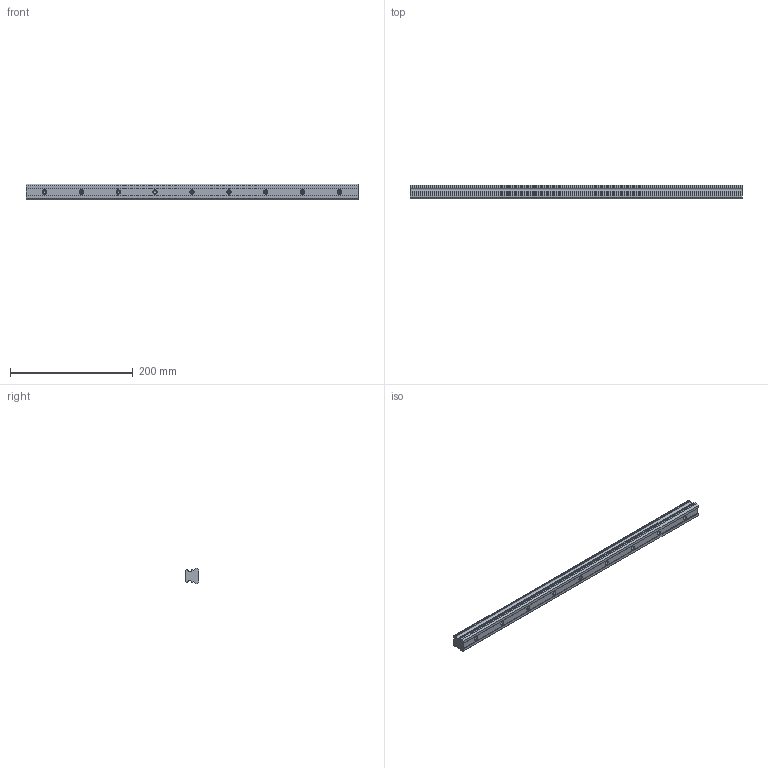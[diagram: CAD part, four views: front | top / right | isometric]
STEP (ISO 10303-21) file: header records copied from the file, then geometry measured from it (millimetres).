
FILE_DESCRIPTION (( 'STEP AP203' ), '1' );
FILE_NAME ('L1018.25R-0540.step', '2023-08-06T10:33:25', ( '' ), ( '' ), 'SwSTEP 2.0', 'SolidWorks 2019', '' );
FILE_SCHEMA (( 'CONFIG_CONTROL_DESIGN' ));
Length unit declared in the file: millimetre
Products named in the file (1): L1018.25R-0540
Bounding box: 540 x 21.8 x 25 mm (x, y, z)
Volume: 224579.6 mm3; surface area: 54467 mm2
Topology: 1 solids, 1 shells, 110 faces, 261 edges, 153 vertices
Faces by surface type: cylinder 39, cone 36, plane 35
Entity records: 3104 total; most frequent: DIRECTION 561, CARTESIAN_POINT 507, ORIENTED_EDGE 486, EDGE_CURVE 243, AXIS2_PLACEMENT_3D 207, VERTEX_POINT 153, LINE 147, VECTOR 147
